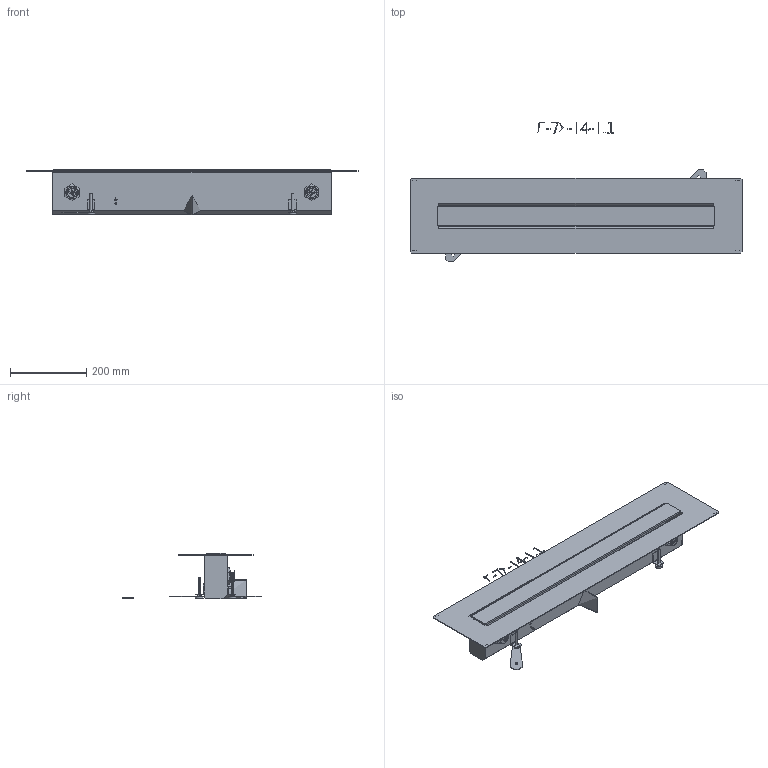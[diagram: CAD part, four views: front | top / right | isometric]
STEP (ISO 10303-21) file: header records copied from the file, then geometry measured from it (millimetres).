
FILE_DESCRIPTION(/* description */ (''),/* implementation_level */ '2;1');
FILE_NAME(/* name */ '3d_Joulia_5-73-04-0.1',/* time_stamp */ '2025-01-20T15:48:53+01:00',/* author */ (''),/* organization */ (''),/* preprocessor_version */ 'ST-DEVELOPER v16.5',/* originating_system */ 'Rhino 7.37',/* authorisation */ '');
FILE_SCHEMA (('AUTOMOTIVE_DESIGN_CC2'));
Length unit declared in the file: centimetre
Products named in the file (1): Document
Bounding box: 873 x 367.88 x 119.5 mm (x, y, z)
Volume: 956229.5 mm3; surface area: 833893.4 mm2
Topology: 19 solids, 120 shells, 706 faces, 2035 edges, 1415 vertices
Faces by surface type: bspline 706
Entity records: 81002 total; most frequent: CARTESIAN_POINT 56309, B_SPLINE_CURVE_WITH_KNOTS 4640, ORIENTED_EDGE 3488, PCURVE 3488, DEFINITIONAL_REPRESENTATION 3488, SURFACE_CURVE 1976, EDGE_CURVE 1976, VERTEX_POINT 1407
